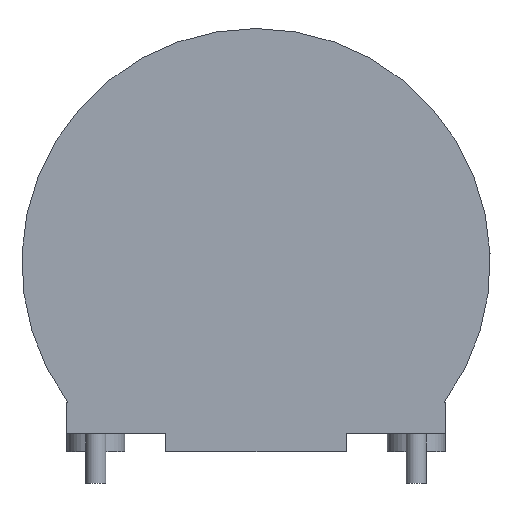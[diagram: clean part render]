
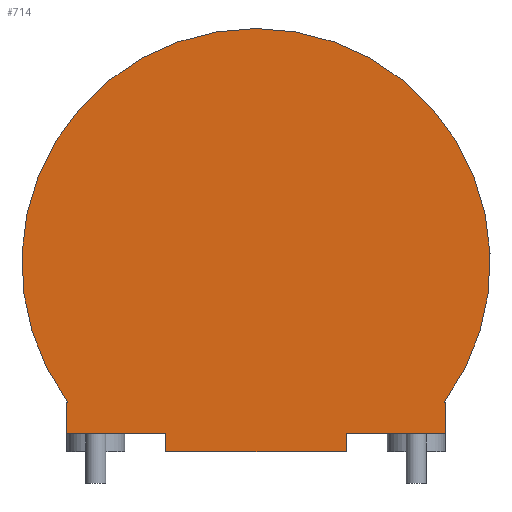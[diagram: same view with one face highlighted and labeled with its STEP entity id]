
A CAD part, front view. The second image highlights one B-rep face of the part: STEP entity #714.
In plain terms, the highlighted planar face has unit normal (0, -1, 0).
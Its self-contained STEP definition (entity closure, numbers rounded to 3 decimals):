
#47=CIRCLE('',#773,26.);
#87=FACE_OUTER_BOUND('',#141,.T.);
#141=EDGE_LOOP('',(#622,#623,#624,#625,#626,#627,#628,#629,#630,#631));
#156=LINE('',#1001,#234);
#167=LINE('',#1029,#245);
#197=LINE('',#1118,#275);
#203=LINE('',#1129,#281);
#204=LINE('',#1131,#282);
#214=LINE('',#1156,#292);
#215=LINE('',#1158,#293);
#220=LINE('',#1167,#298);
#221=LINE('',#1169,#299);
#234=VECTOR('',#803,10.);
#245=VECTOR('',#824,10.);
#275=VECTOR('',#916,10.);
#281=VECTOR('',#926,10.);
#282=VECTOR('',#929,10.);
#292=VECTOR('',#953,10.);
#293=VECTOR('',#956,10.);
#298=VECTOR('',#965,10.);
#299=VECTOR('',#968,10.);
#309=VERTEX_POINT('',#998);
#310=VERTEX_POINT('',#1000);
#321=VERTEX_POINT('',#1026);
#322=VERTEX_POINT('',#1028);
#350=VERTEX_POINT('',#1117);
#353=VERTEX_POINT('',#1127);
#357=VERTEX_POINT('',#1144);
#359=VERTEX_POINT('',#1148);
#361=VERTEX_POINT('',#1154);
#363=VERTEX_POINT('',#1165);
#376=EDGE_CURVE('',#310,#309,#156,.T.);
#391=EDGE_CURVE('',#322,#321,#167,.T.);
#429=EDGE_CURVE('',#322,#350,#197,.T.);
#435=EDGE_CURVE('',#309,#353,#203,.T.);
#436=EDGE_CURVE('',#350,#353,#204,.T.);
#445=EDGE_CURVE('',#357,#359,#47,.T.);
#448=EDGE_CURVE('',#361,#359,#214,.T.);
#449=EDGE_CURVE('',#310,#361,#215,.T.);
#454=EDGE_CURVE('',#321,#363,#220,.T.);
#455=EDGE_CURVE('',#357,#363,#221,.T.);
#622=ORIENTED_EDGE('',*,*,#376,.T.);
#623=ORIENTED_EDGE('',*,*,#435,.T.);
#624=ORIENTED_EDGE('',*,*,#436,.F.);
#625=ORIENTED_EDGE('',*,*,#429,.F.);
#626=ORIENTED_EDGE('',*,*,#391,.T.);
#627=ORIENTED_EDGE('',*,*,#454,.T.);
#628=ORIENTED_EDGE('',*,*,#455,.F.);
#629=ORIENTED_EDGE('',*,*,#445,.T.);
#630=ORIENTED_EDGE('',*,*,#448,.F.);
#631=ORIENTED_EDGE('',*,*,#449,.F.);
#672=PLANE('',#778);
#714=ADVANCED_FACE('',(#87),#672,.T.);
#773=AXIS2_PLACEMENT_3D('',#1150,#947,#948);
#778=AXIS2_PLACEMENT_3D('',#1168,#966,#967);
#803=DIRECTION('',(1.,0.,0.));
#824=DIRECTION('',(1.,0.,0.));
#916=DIRECTION('',(0.,0.,-1.));
#926=DIRECTION('',(0.,0.,-1.));
#929=DIRECTION('',(-1.,0.,0.));
#947=DIRECTION('center_axis',(0.,-1.,0.));
#948=DIRECTION('ref_axis',(0.803,0.,0.596));
#953=DIRECTION('',(1.,0.,0.));
#956=DIRECTION('',(0.,0.,1.));
#965=DIRECTION('',(0.,0.,1.));
#966=DIRECTION('center_axis',(0.,-1.,0.));
#967=DIRECTION('ref_axis',(1.,0.,0.));
#968=DIRECTION('',(1.,0.,0.));
#998=CARTESIAN_POINT('',(-10.,-13.5,0.));
#1000=CARTESIAN_POINT('',(-21.,-13.5,0.));
#1001=CARTESIAN_POINT('',(-21.,-13.5,0.));
#1026=CARTESIAN_POINT('',(21.,-13.5,0.));
#1028=CARTESIAN_POINT('',(10.,-13.5,0.));
#1029=CARTESIAN_POINT('',(-21.,-13.5,0.));
#1117=CARTESIAN_POINT('',(10.,-13.5,-2.));
#1118=CARTESIAN_POINT('',(10.,-13.5,0.));
#1127=CARTESIAN_POINT('',(-10.,-13.5,-2.));
#1129=CARTESIAN_POINT('',(-10.,-13.5,0.));
#1131=CARTESIAN_POINT('',(-21.,-13.5,-2.));
#1144=CARTESIAN_POINT('',(20.875,-13.5,3.5));
#1148=CARTESIAN_POINT('',(-20.875,-13.5,3.5));
#1150=CARTESIAN_POINT('Origin',(0.,-13.5,19.));
#1154=CARTESIAN_POINT('',(-21.,-13.5,3.5));
#1156=CARTESIAN_POINT('',(-21.,-13.5,3.5));
#1158=CARTESIAN_POINT('',(-21.,-13.5,0.));
#1165=CARTESIAN_POINT('',(21.,-13.5,3.5));
#1167=CARTESIAN_POINT('',(21.,-13.5,0.));
#1168=CARTESIAN_POINT('Origin',(-21.,-13.5,0.));
#1169=CARTESIAN_POINT('',(-21.,-13.5,3.5));
